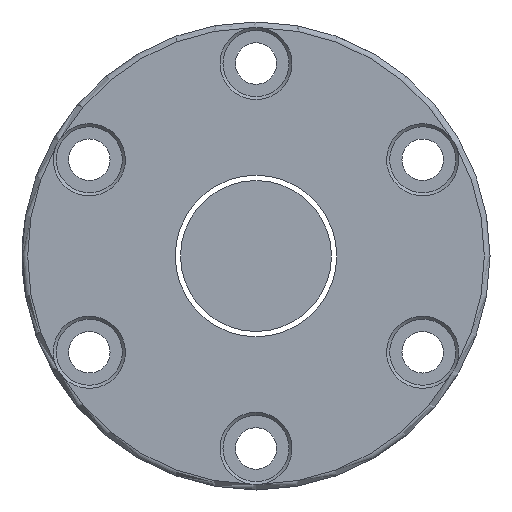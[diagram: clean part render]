
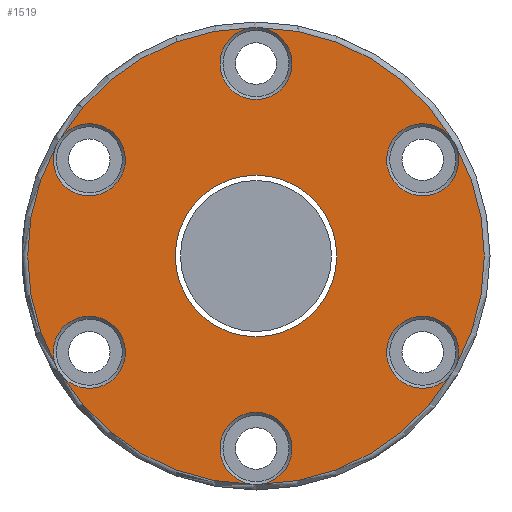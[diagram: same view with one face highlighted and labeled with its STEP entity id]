
A CAD part, left-side view. The second image highlights one B-rep face of the part: STEP entity #1519.
In plain terms, the highlighted planar face has unit normal (-1, 0, 0).
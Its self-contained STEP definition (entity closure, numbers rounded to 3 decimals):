
#9 = CIRCLE ( 'NONE', #1499, 9.55 ) ;
#17 = CARTESIAN_POINT ( 'NONE',  ( -100., -52.918, -29.325 ) ) ;
#31 = ORIENTED_EDGE ( 'NONE', *, *, #1880, .T. ) ;
#38 = DIRECTION ( 'NONE',  ( -1., 0., 0. ) ) ;
#80 = DIRECTION ( 'NONE',  ( 0., 0., -1. ) ) ;
#83 = CARTESIAN_POINT ( 'NONE',  ( -100., 44.167, 25.5 ) ) ;
#100 = CIRCLE ( 'NONE', #2082, 9.55 ) ;
#132 = DIRECTION ( 'NONE',  ( 0., 0., 1. ) ) ;
#144 = DIRECTION ( 'NONE',  ( 1., 0., 0. ) ) ;
#146 = CARTESIAN_POINT ( 'NONE',  ( -100., 0., 0. ) ) ;
#222 = EDGE_CURVE ( 'NONE', #1525, #2518, #9, .T. ) ;
#302 = CARTESIAN_POINT ( 'NONE',  ( -100., 0., -21.4 ) ) ;
#327 = DIRECTION ( 'NONE',  ( -1., 0., 0. ) ) ;
#347 = VERTEX_POINT ( 'NONE', #302 ) ;
#386 = EDGE_CURVE ( 'NONE', #1743, #2263, #1404, .T. ) ;
#440 = VERTEX_POINT ( 'NONE', #1787 ) ;
#444 = DIRECTION ( 'NONE',  ( -1., 0., 0. ) ) ;
#447 = ORIENTED_EDGE ( 'NONE', *, *, #1977, .T. ) ;
#460 = CIRCLE ( 'NONE', #2143, 60.5 ) ;
#471 = ORIENTED_EDGE ( 'NONE', *, *, #2959, .T. ) ;
#495 = DIRECTION ( 'NONE',  ( 0., 0., 1. ) ) ;
#586 = DIRECTION ( 'NONE',  ( 1., 0., 0. ) ) ;
#610 = EDGE_CURVE ( 'NONE', #2403, #2559, #100, .T. ) ;
#614 = DIRECTION ( 'NONE',  ( 0., 0., 1. ) ) ;
#658 = CARTESIAN_POINT ( 'NONE',  ( -100., 1.063, -60.491 ) ) ;
#684 = EDGE_CURVE ( 'NONE', #2699, #1525, #2333, .T. ) ;
#730 = CARTESIAN_POINT ( 'NONE',  ( -100., -1.063, 60.491 ) ) ;
#789 = AXIS2_PLACEMENT_3D ( 'NONE', #2482, #144, #2267 ) ;
#793 = EDGE_CURVE ( 'NONE', #1336, #1743, #2828, .T. ) ;
#835 = AXIS2_PLACEMENT_3D ( 'NONE', #2590, #1243, #495 ) ;
#934 = AXIS2_PLACEMENT_3D ( 'NONE', #1214, #1045, #80 ) ;
#993 = FACE_OUTER_BOUND ( 'NONE', #1399, .T. ) ;
#1032 = DIRECTION ( 'NONE',  ( 0., 0., 1. ) ) ;
#1045 = DIRECTION ( 'NONE',  ( 1., 0., 0. ) ) ;
#1057 = CARTESIAN_POINT ( 'NONE',  ( -100., -44.167, -25.5 ) ) ;
#1069 = DIRECTION ( 'NONE',  ( 0., 0., 1. ) ) ;
#1139 = VERTEX_POINT ( 'NONE', #730 ) ;
#1148 = CARTESIAN_POINT ( 'NONE',  ( -100., 0., 0. ) ) ;
#1209 = AXIS2_PLACEMENT_3D ( 'NONE', #2702, #2239, #614 ) ;
#1214 = CARTESIAN_POINT ( 'NONE',  ( -100., 0., 0. ) ) ;
#1229 = CARTESIAN_POINT ( 'NONE',  ( -100., 0., 0. ) ) ;
#1243 = DIRECTION ( 'NONE',  ( -1., 0., 0. ) ) ;
#1272 = AXIS2_PLACEMENT_3D ( 'NONE', #2905, #2425, #132 ) ;
#1273 = DIRECTION ( 'NONE',  ( 1., 0., 0. ) ) ;
#1274 = AXIS2_PLACEMENT_3D ( 'NONE', #1057, #586, #1069 ) ;
#1308 = EDGE_CURVE ( 'NONE', #440, #1336, #2537, .T. ) ;
#1318 = CIRCLE ( 'NONE', #2046, 60.5 ) ;
#1336 = VERTEX_POINT ( 'NONE', #1770 ) ;
#1357 = DIRECTION ( 'NONE',  ( 0., 0., 1. ) ) ;
#1362 = DIRECTION ( 'NONE',  ( 0., 0., 1. ) ) ;
#1365 = VERTEX_POINT ( 'NONE', #2999 ) ;
#1378 = ORIENTED_EDGE ( 'NONE', *, *, #386, .T. ) ;
#1399 = EDGE_LOOP ( 'NONE', ( #2708, #471, #2327, #31, #1809, #2993, #1378, #447, #2956, #2306, #1556, #2123 ) ) ;
#1404 = CIRCLE ( 'NONE', #1209, 9.55 ) ;
#1443 = CARTESIAN_POINT ( 'NONE',  ( -100., 0., 0. ) ) ;
#1455 = ORIENTED_EDGE ( 'NONE', *, *, #2397, .T. ) ;
#1499 = AXIS2_PLACEMENT_3D ( 'NONE', #2662, #2016, #1533 ) ;
#1515 = CIRCLE ( 'NONE', #1274, 9.55 ) ;
#1519 = ADVANCED_FACE ( 'NONE', ( #993, #1726 ), #1696, .T. ) ;
#1525 = VERTEX_POINT ( 'NONE', #1711 ) ;
#1533 = DIRECTION ( 'NONE',  ( 0., 0., 1. ) ) ;
#1553 = DIRECTION ( 'NONE',  ( -1., 0., 0. ) ) ;
#1556 = ORIENTED_EDGE ( 'NONE', *, *, #222, .T. ) ;
#1604 = VERTEX_POINT ( 'NONE', #2019 ) ;
#1612 = AXIS2_PLACEMENT_3D ( 'NONE', #2059, #2735, #1357 ) ;
#1637 = DIRECTION ( 'NONE',  ( -1., 0., 0. ) ) ;
#1690 = CARTESIAN_POINT ( 'NONE',  ( -100., 52.918, 29.325 ) ) ;
#1696 = PLANE ( 'NONE',  #1272 ) ;
#1711 = CARTESIAN_POINT ( 'NONE',  ( -100., -52.918, 29.325 ) ) ;
#1726 = FACE_BOUND ( 'NONE', #2798, .T. ) ;
#1731 = CARTESIAN_POINT ( 'NONE',  ( -100., 51.855, 31.166 ) ) ;
#1737 = EDGE_CURVE ( 'NONE', #1139, #1604, #2141, .T. ) ;
#1743 = VERTEX_POINT ( 'NONE', #658 ) ;
#1770 = CARTESIAN_POINT ( 'NONE',  ( -100., 51.855, -31.166 ) ) ;
#1773 = CARTESIAN_POINT ( 'NONE',  ( -100., -1.063, -60.491 ) ) ;
#1783 = DIRECTION ( 'NONE',  ( 0., 0., 1. ) ) ;
#1787 = CARTESIAN_POINT ( 'NONE',  ( -100., 52.918, -29.325 ) ) ;
#1809 = ORIENTED_EDGE ( 'NONE', *, *, #1308, .T. ) ;
#1880 = EDGE_CURVE ( 'NONE', #2559, #440, #1318, .T. ) ;
#1886 = DIRECTION ( 'NONE',  ( 0., 0., 1. ) ) ;
#1977 = EDGE_CURVE ( 'NONE', #2263, #1365, #2485, .T. ) ;
#2016 = DIRECTION ( 'NONE',  ( 1., 0., 0. ) ) ;
#2019 = CARTESIAN_POINT ( 'NONE',  ( -100., 1.063, 60.491 ) ) ;
#2046 = AXIS2_PLACEMENT_3D ( 'NONE', #1229, #38, #1886 ) ;
#2059 = CARTESIAN_POINT ( 'NONE',  ( -100., 44.167, -25.5 ) ) ;
#2082 = AXIS2_PLACEMENT_3D ( 'NONE', #83, #1273, #2182 ) ;
#2123 = ORIENTED_EDGE ( 'NONE', *, *, #2754, .T. ) ;
#2141 = CIRCLE ( 'NONE', #789, 9.55 ) ;
#2143 = AXIS2_PLACEMENT_3D ( 'NONE', #146, #1553, #1783 ) ;
#2182 = DIRECTION ( 'NONE',  ( 0., 0., 1. ) ) ;
#2192 = CIRCLE ( 'NONE', #934, 21.4 ) ;
#2239 = DIRECTION ( 'NONE',  ( 1., 0., 0. ) ) ;
#2263 = VERTEX_POINT ( 'NONE', #1773 ) ;
#2267 = DIRECTION ( 'NONE',  ( 0., 0., 1. ) ) ;
#2298 = CIRCLE ( 'NONE', #2933, 60.5 ) ;
#2299 = EDGE_CURVE ( 'NONE', #1365, #2699, #1515, .T. ) ;
#2306 = ORIENTED_EDGE ( 'NONE', *, *, #684, .T. ) ;
#2327 = ORIENTED_EDGE ( 'NONE', *, *, #610, .T. ) ;
#2333 = CIRCLE ( 'NONE', #2877, 60.5 ) ;
#2397 = EDGE_CURVE ( 'NONE', #347, #347, #2192, .T. ) ;
#2403 = VERTEX_POINT ( 'NONE', #1731 ) ;
#2425 = DIRECTION ( 'NONE',  ( -1., 0., 0. ) ) ;
#2482 = CARTESIAN_POINT ( 'NONE',  ( -100., 0., 51. ) ) ;
#2485 = CIRCLE ( 'NONE', #835, 60.5 ) ;
#2518 = VERTEX_POINT ( 'NONE', #2911 ) ;
#2527 = AXIS2_PLACEMENT_3D ( 'NONE', #2927, #444, #1362 ) ;
#2537 = CIRCLE ( 'NONE', #1612, 9.55 ) ;
#2559 = VERTEX_POINT ( 'NONE', #1690 ) ;
#2568 = DIRECTION ( 'NONE',  ( 0., 0., 1. ) ) ;
#2590 = CARTESIAN_POINT ( 'NONE',  ( -100., 0., 0. ) ) ;
#2662 = CARTESIAN_POINT ( 'NONE',  ( -100., -44.167, 25.5 ) ) ;
#2699 = VERTEX_POINT ( 'NONE', #17 ) ;
#2702 = CARTESIAN_POINT ( 'NONE',  ( -100., 0., -51. ) ) ;
#2708 = ORIENTED_EDGE ( 'NONE', *, *, #1737, .T. ) ;
#2735 = DIRECTION ( 'NONE',  ( 1., 0., 0. ) ) ;
#2754 = EDGE_CURVE ( 'NONE', #2518, #1139, #2298, .T. ) ;
#2798 = EDGE_LOOP ( 'NONE', ( #1455 ) ) ;
#2828 = CIRCLE ( 'NONE', #2527, 60.5 ) ;
#2877 = AXIS2_PLACEMENT_3D ( 'NONE', #1443, #327, #1032 ) ;
#2905 = CARTESIAN_POINT ( 'NONE',  ( -100., 62., 0. ) ) ;
#2911 = CARTESIAN_POINT ( 'NONE',  ( -100., -51.855, 31.166 ) ) ;
#2927 = CARTESIAN_POINT ( 'NONE',  ( -100., 0., 0. ) ) ;
#2933 = AXIS2_PLACEMENT_3D ( 'NONE', #1148, #1637, #2568 ) ;
#2956 = ORIENTED_EDGE ( 'NONE', *, *, #2299, .T. ) ;
#2959 = EDGE_CURVE ( 'NONE', #1604, #2403, #460, .T. ) ;
#2993 = ORIENTED_EDGE ( 'NONE', *, *, #793, .T. ) ;
#2999 = CARTESIAN_POINT ( 'NONE',  ( -100., -51.855, -31.166 ) ) ;
